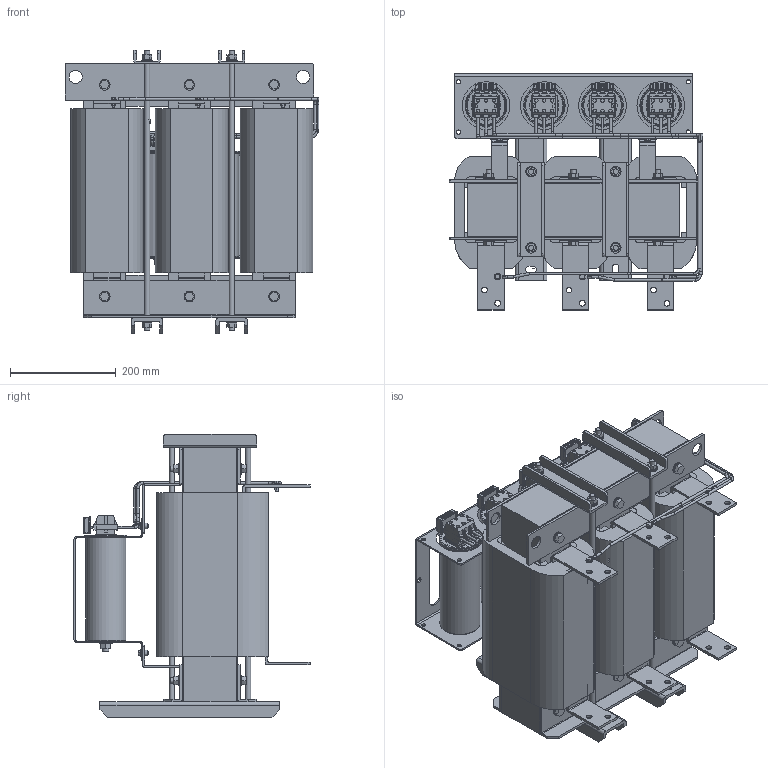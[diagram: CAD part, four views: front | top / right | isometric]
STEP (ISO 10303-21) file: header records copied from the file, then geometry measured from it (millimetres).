
FILE_DESCRIPTION (( 'STEP AP203' ), '1' );
FILE_NAME ('蔓躅漤铋 耔眢耥 翳朦蝠 _ ISINOF-200_413-4.STEP', '2026-07-20T13:38:13', ( '' ), ( '' ), 'SwSTEP 2.0', 'SolidWorks 2021', '' );
FILE_SCHEMA (( 'CONFIG_CONTROL_DESIGN' ));
Length unit declared in the file: millimetre
Products named in the file (198): 200KW淏玾疏薦疏萇蕨ん_196; 200KW淏玾疏薦疏萇蕨ん_66; 200KW淏玾疏薦疏萇蕨ん_141; 200KW淏玾疏薦疏萇蕨ん_183; 200KW淏玾疏薦疏萇蕨ん_191; 200KW淏玾疏薦疏萇蕨ん_102; 200KW淏玾疏薦疏萇蕨ん_194; 200KW淏玾疏薦疏萇蕨ん_157; 200KW淏玾疏薦疏萇蕨ん_34; 200KW淏玾疏薦疏萇蕨ん_70; 200KW淏玾疏薦疏萇蕨ん_97; 200KW淏玾疏薦疏萇蕨ん_105; 200KW淏玾疏薦疏萇蕨ん_116; 200KW淏玾疏薦疏萇蕨ん_147; 200KW淏玾疏薦疏萇蕨ん_42; 200KW淏玾疏薦疏萇蕨ん_40; 200KW淏玾疏薦疏萇蕨ん_60; 200KW淏玾疏薦疏萇蕨ん_80; 200KW淏玾疏薦疏萇蕨ん_25; 200KW淏玾疏薦疏萇蕨ん_62; 200KW淏玾疏薦疏萇蕨ん_130; 200KW淏玾疏薦疏萇蕨ん_170; 200KW淏玾疏薦疏萇蕨ん_109; 200KW淏玾疏薦疏萇蕨ん_19; 200KW淏玾疏薦疏萇蕨ん_159; 200KW淏玾疏薦疏萇蕨ん_154; 200KW淏玾疏薦疏萇蕨ん_86; 蔓躅漤铋 耔眢耥 翳朦蝠 _ ISINOF-200_413-4; 200KW淏玾疏薦疏萇蕨ん_156; 200KW淏玾疏薦疏萇蕨ん_106; 200KW淏玾疏薦疏萇蕨ん_122; 200KW淏玾疏薦疏萇蕨ん_135; 200KW淏玾疏薦疏萇蕨ん_171; 200KW淏玾疏薦疏萇蕨ん_71; 200KW淏玾疏薦疏萇蕨ん_18; 200KW淏玾疏薦疏萇蕨ん_149; 200KW淏玾疏薦疏萇蕨ん_58; 200KW淏玾疏薦疏萇蕨ん_119; 200KW淏玾疏薦疏萇蕨ん_24; 200KW淏玾疏薦疏萇蕨ん_117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
Assembly tree (197 placements, depth 2):
  蔓躅漤铋 耔眢耥 翳朦蝠 _ ISINOF-200_413-4
    200KW淏玾疏薦疏萇蕨ん_123
    200KW淏玾疏薦疏萇蕨ん_42
    200KW淏玾疏薦疏萇蕨ん_173
    200KW淏玾疏薦疏萇蕨ん_159
    200KW淏玾疏薦疏萇蕨ん_52
    200KW淏玾疏薦疏萇蕨ん_163
    200KW淏玾疏薦疏萇蕨ん_90
    200KW淏玾疏薦疏萇蕨ん_36
    200KW淏玾疏薦疏萇蕨ん_126
    200KW淏玾疏薦疏萇蕨ん_91
    200KW淏玾疏薦疏萇蕨ん_53
    200KW淏玾疏薦疏萇蕨ん_18
    200KW淏玾疏薦疏萇蕨ん_5
    200KW淏玾疏薦疏萇蕨ん_6
    200KW淏玾疏薦疏萇蕨ん_92
    200KW淏玾疏薦疏萇蕨ん_63
    200KW淏玾疏薦疏萇蕨ん
    200KW淏玾疏薦疏萇蕨ん_151
    200KW淏玾疏薦疏萇蕨ん_23
    200KW淏玾疏薦疏萇蕨ん_195
    200KW淏玾疏薦疏萇蕨ん_70
    200KW淏玾疏薦疏萇蕨ん_35
    200KW淏玾疏薦疏萇蕨ん_185
    200KW淏玾疏薦疏萇蕨ん_21
    200KW淏玾疏薦疏萇蕨ん_100
    200KW淏玾疏薦疏萇蕨ん_28
    200KW淏玾疏薦疏萇蕨ん_58
    200KW淏玾疏薦疏萇蕨ん_182
    200KW淏玾疏薦疏萇蕨ん_169
    200KW淏玾疏薦疏萇蕨ん_133
    200KW淏玾疏薦疏萇蕨ん_148
    200KW淏玾疏薦疏萇蕨ん_22
    200KW淏玾疏薦疏萇蕨ん_127
    200KW淏玾疏薦疏萇蕨ん_55
    200KW淏玾疏薦疏萇蕨ん_153
    200KW淏玾疏薦疏萇蕨ん_110
    200KW淏玾疏薦疏萇蕨ん_4
    200KW淏玾疏薦疏萇蕨ん_155
    200KW淏玾疏薦疏萇蕨ん_139
    200KW淏玾疏薦疏萇蕨ん_41
    200KW淏玾疏薦疏萇蕨ん_143
    200KW淏玾疏薦疏萇蕨ん_8
    200KW淏玾疏薦疏萇蕨ん_72
    200KW淏玾疏薦疏萇蕨ん_83
    200KW淏玾疏薦疏萇蕨ん_161
    200KW淏玾疏薦疏萇蕨ん_12
    200KW淏玾疏薦疏萇蕨ん_165
    200KW淏玾疏薦疏萇蕨ん_77
    200KW淏玾疏薦疏萇蕨ん_25
    200KW淏玾疏薦疏萇蕨ん_172
    200KW淏玾疏薦疏萇蕨ん_192
    200KW淏玾疏薦疏萇蕨ん_194
    200KW淏玾疏薦疏萇蕨ん_59
    200KW淏玾疏薦疏萇蕨ん_162
    200KW淏玾疏薦疏萇蕨ん_170
    200KW淏玾疏薦疏萇蕨ん_129
    200KW淏玾疏薦疏萇蕨ん_26
    200KW淏玾疏薦疏萇蕨ん_145
    200KW淏玾疏薦疏萇蕨ん_142
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Bounding box: 479.79 x 446 x 534.95 mm (x, y, z)
Volume: 36167925.5 mm3; surface area: 4099152.8 mm2
Topology: 197 solids, 197 shells, 2790 faces, 7011 edges, 4635 vertices
Faces by surface type: plane 1922, cylinder 760, torus 53, bspline 47, cone 8
Full cylindrical faces by diameter (mm): 4.8 x3, 5 x68, 6 x10, 6.3 x48, 6.4 x3, 7 x3, 8 x8, 9.6 x4, 10 x12, 11 x16, 12 x8, 13 x4, 15.588 x14, 20 x44, 24 x4, 25 x4, 73 x4, 76 x4, 79 x4, 90 x4
Entity records: 108679 total; most frequent: CARTESIAN_POINT 20900, DIRECTION 13485, ORIENTED_EDGE 13274, EDGE_CURVE 6637, LINE 4949, VECTOR 4949, VERTEX_POINT 4591, AXIS2_PLACEMENT_3D 4268
